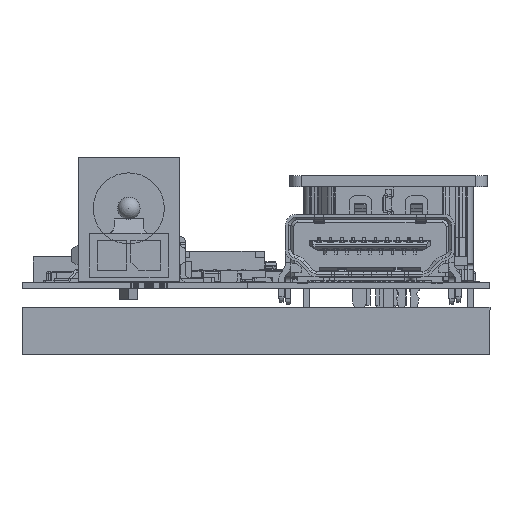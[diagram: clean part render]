
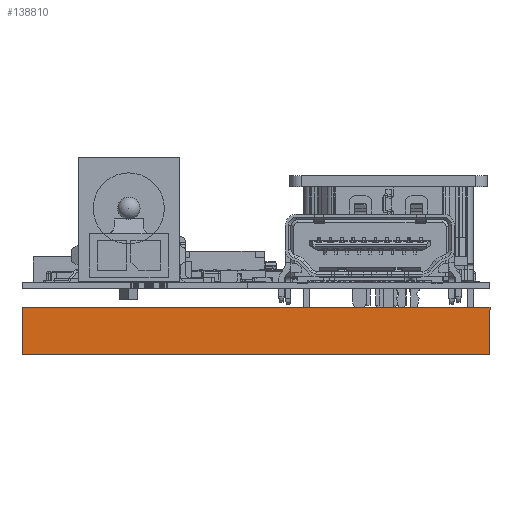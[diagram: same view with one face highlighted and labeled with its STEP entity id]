
A CAD part, left-side view. The second image highlights one B-rep face of the part: STEP entity #138810.
In plain terms, the highlighted planar face has unit normal (-1, 0, 0) as drawn and (1, 0, 0) by its records, which use the part's own axes.
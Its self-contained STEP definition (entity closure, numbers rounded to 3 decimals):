
#14044=FACE_OUTER_BOUND('',#21274,.T.);
#21274=EDGE_LOOP('',(#126388,#126389,#126390,#126391));
#37807=LINE('',#242451,#54355);
#37808=LINE('',#242454,#54356);
#37809=LINE('',#242456,#54357);
#37810=LINE('',#242457,#54358);
#54355=VECTOR('',#185613,10.);
#54356=VECTOR('',#185616,10.);
#54357=VECTOR('',#185617,10.);
#54358=VECTOR('',#185618,10.);
#67139=VERTEX_POINT('',#242444);
#67142=VERTEX_POINT('',#242449);
#67143=VERTEX_POINT('',#242453);
#67144=VERTEX_POINT('',#242455);
#86896=EDGE_CURVE('',#67139,#67142,#37807,.T.);
#86897=EDGE_CURVE('',#67143,#67139,#37808,.T.);
#86898=EDGE_CURVE('',#67144,#67142,#37809,.T.);
#86899=EDGE_CURVE('',#67143,#67144,#37810,.T.);
#126388=ORIENTED_EDGE('',*,*,#86897,.T.);
#126389=ORIENTED_EDGE('',*,*,#86896,.T.);
#126390=ORIENTED_EDGE('',*,*,#86898,.F.);
#126391=ORIENTED_EDGE('',*,*,#86899,.F.);
#131824=PLANE('',#149381);
#138810=ADVANCED_FACE('',(#14044),#131824,.T.);
#149381=AXIS2_PLACEMENT_3D('',#242452,#185614,#185615);
#185613=DIRECTION('',(0.,0.,1.));
#185614=DIRECTION('center_axis',(1.,0.,0.));
#185615=DIRECTION('ref_axis',(0.,1.,0.));
#185616=DIRECTION('',(0.,1.,0.));
#185617=DIRECTION('',(0.,1.,0.));
#185618=DIRECTION('',(0.,0.,1.));
#242444=CARTESIAN_POINT('',(288.92,41.5,0.));
#242449=CARTESIAN_POINT('',(288.92,41.5,4.2));
#242451=CARTESIAN_POINT('',(288.92,41.5,0.));
#242452=CARTESIAN_POINT('Origin',(288.92,0.,0.));
#242453=CARTESIAN_POINT('',(288.92,0.,0.));
#242454=CARTESIAN_POINT('',(288.92,0.,0.));
#242455=CARTESIAN_POINT('',(288.92,0.,4.2));
#242456=CARTESIAN_POINT('',(288.92,0.,4.2));
#242457=CARTESIAN_POINT('',(288.92,0.,0.));
